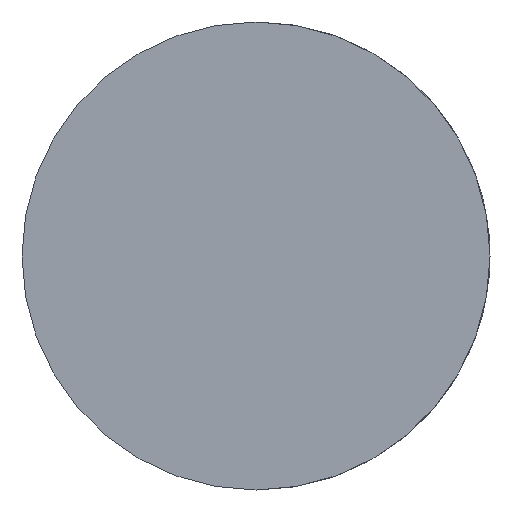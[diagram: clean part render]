
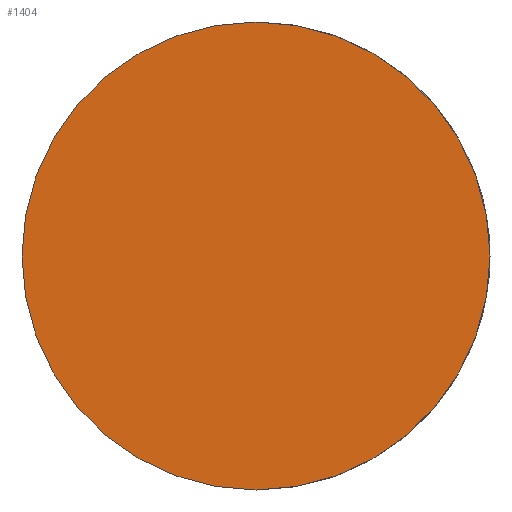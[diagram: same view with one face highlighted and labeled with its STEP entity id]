
A CAD part, front view. The second image highlights one B-rep face of the part: STEP entity #1404.
In plain terms, the highlighted planar face has unit normal (0, -1, 0).
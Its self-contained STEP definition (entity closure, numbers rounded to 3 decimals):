
#4 = ORIENTED_EDGE ( 'NONE', *, *, #776, .T. ) ;
#27 = CARTESIAN_POINT ( 'NONE',  ( 0., 0., 50. ) ) ;
#167 = CIRCLE ( 'NONE', #1457, 50. ) ;
#172 = AXIS2_PLACEMENT_3D ( 'NONE', #1066, #1758, #180 ) ;
#180 = DIRECTION ( 'NONE',  ( 0., 0., -1. ) ) ;
#192 = VERTEX_POINT ( 'NONE', #27 ) ;
#682 = CARTESIAN_POINT ( 'NONE',  ( 0., 0., 0. ) ) ;
#687 = AXIS2_PLACEMENT_3D ( 'NONE', #682, #2085, #1220 ) ;
#776 = EDGE_CURVE ( 'NONE', #192, #1516, #2193, .T. ) ;
#1066 = CARTESIAN_POINT ( 'NONE',  ( 0., 0., 0. ) ) ;
#1115 = CARTESIAN_POINT ( 'NONE',  ( 0., 0., -50. ) ) ;
#1195 = FACE_OUTER_BOUND ( 'NONE', #1754, .T. ) ;
#1220 = DIRECTION ( 'NONE',  ( 0., 0., -1. ) ) ;
#1404 = ADVANCED_FACE ( 'NONE', ( #1195 ), #2252, .T. ) ;
#1457 = AXIS2_PLACEMENT_3D ( 'NONE', #1514, #1707, #2216 ) ;
#1514 = CARTESIAN_POINT ( 'NONE',  ( 0., 0., 0. ) ) ;
#1516 = VERTEX_POINT ( 'NONE', #1115 ) ;
#1698 = EDGE_CURVE ( 'NONE', #1516, #192, #167, .T. ) ;
#1707 = DIRECTION ( 'NONE',  ( 0., -1., 0. ) ) ;
#1754 = EDGE_LOOP ( 'NONE', ( #4, #2144 ) ) ;
#1758 = DIRECTION ( 'NONE',  ( 0., -1., 0. ) ) ;
#2085 = DIRECTION ( 'NONE',  ( 0., -1., 0. ) ) ;
#2144 = ORIENTED_EDGE ( 'NONE', *, *, #1698, .T. ) ;
#2193 = CIRCLE ( 'NONE', #172, 50. ) ;
#2216 = DIRECTION ( 'NONE',  ( 0., 0., -1. ) ) ;
#2252 = PLANE ( 'NONE',  #687 ) ;
